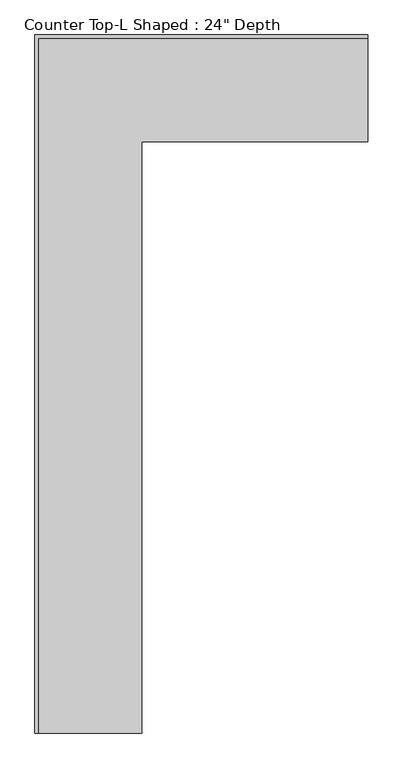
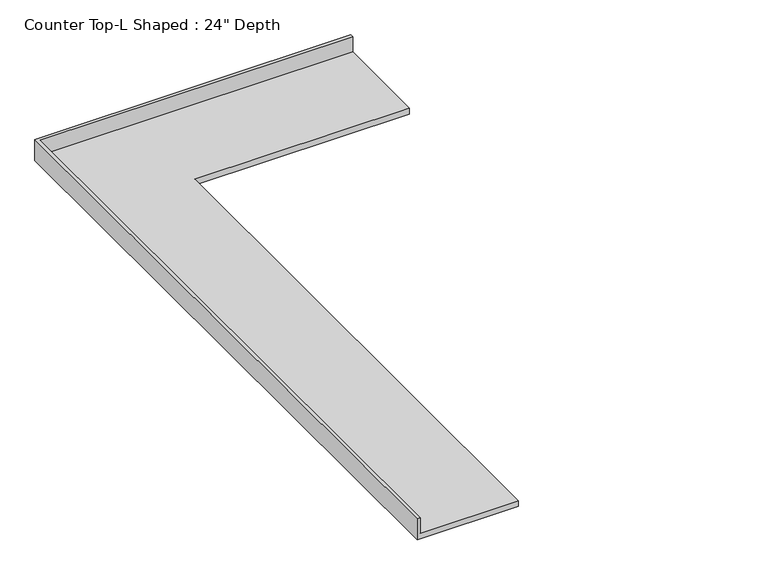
"""IFC4 building model written with IfcOpenShell, lengths in millimetres: furniture geometry."""

from ifc_helpers import new_model, si_unit, origin, place, context, project, spatial, faceted_brep, source, transform, mapped, element, save


def furniture_af42006d(model_context):
    return source(origin(), model_context, "Body", "Brep", [
        faceted_brep([(-565.4622951, -4152.9, 914.4), (-565.4622951, -635.0, 914.4), (780.7377049, -635.0, 914.4), (780.7377049, -19.05, 914.4), (-1181.4122951, -19.05, 914.4), (-1181.4122951, -4152.9, 914.4), (780.7377049, 0.0, 876.3), (780.7377049, -635.0, 876.3), (-565.4622951, -635.0, 876.3), (-565.4622951, -4152.9, 876.3), (-1200.4622951, -4152.9, 876.3), (-1200.4622951, 0.0, 876.3), (-1200.4622951, 0.0, 1016.0), (780.7377049, 0.0, 1016.0), (-1200.4622951, -4152.9, 1016.0), (-1181.4122951, -4152.9, 1016.0), (780.7377049, -19.05, 1016.0), (-1181.4122951, -19.05, 1016.0)], [[[0, 1, 2, 3, 4, 5]], [[6, 7, 8, 9, 10, 11]], [[6, 11, 12, 13]], [[11, 10, 14, 12]], [[14, 10, 9, 0, 5, 15]], [[1, 0, 9, 8]], [[2, 1, 8, 7]], [[7, 6, 13, 16, 3, 2]], [[12, 14, 15, 17, 16, 13]], [[3, 16, 17, 4]], [[17, 15, 5, 4]]]),
    ])


if __name__ == "__main__":
    model = new_model("IFC4")
    model_context = context("Model", 3, world=origin())
    ifc_project = project(units=[si_unit("LENGTHUNIT", "METRE", prefix="MILLI")], contexts=[model_context])
    site = spatial("IfcSite", under=ifc_project)
    building = spatial("IfcBuilding", under=site)
    placement = place(None, origin())
    furniture_shape = furniture_af42006d(model_context)
    element("IfcFurniture", 1, ObjectType="Counter Top-L Shaped : 24\" Depth", at=placement, inside=building, context=model_context, shape_type="MappedRepresentation", body=[
        mapped(furniture_shape, transform((0.0, 0.0, 0.0), x_axis=(1.0, 0.0, 0.0), y_axis=(0.0, 1.0, 0.0), z_axis=(0.0, 0.0, 1.0))),
    ])
    save(model, "model.ifc")
